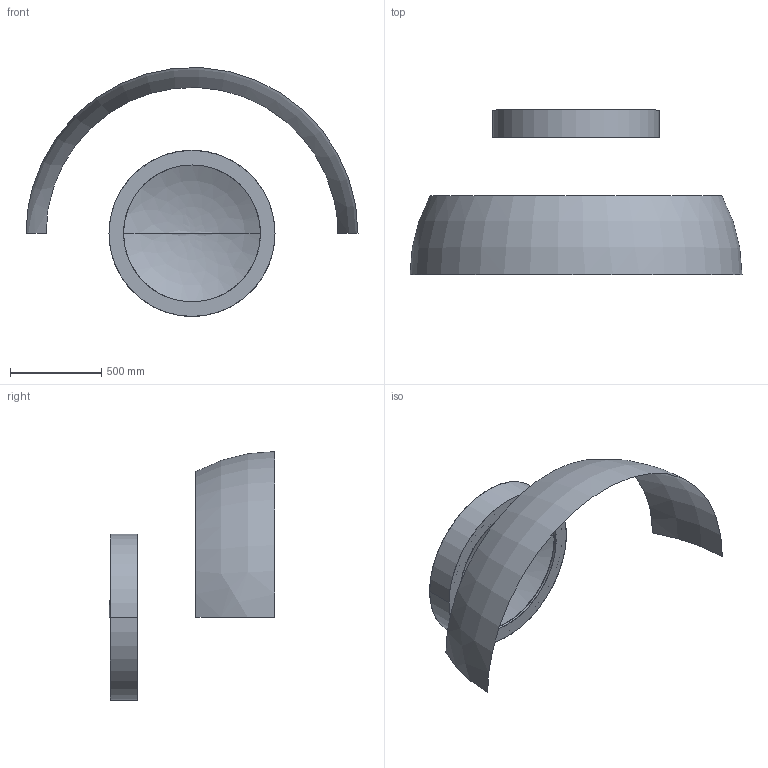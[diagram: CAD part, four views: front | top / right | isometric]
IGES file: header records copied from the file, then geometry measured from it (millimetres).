
Start section: SolidWorks IGES file using analytic representation for surfaces
Global section: file name: C:\Users\Stagiaire\Desktop\Rendu 3D\COUPOLE\3162_COUPOLE_75\3162_COUPOLE_75.IGS; native system: SolidWorks 2014; preprocessor: SolidWorks 2014; author: Stagiaire; date: 141006.164307; units: millimetre
Bounding box: 1819.95 x 909.98 x 1363.51 mm (x, y, z)
Surface area: 3398511.4 mm2 (no closed solid volume)
Topology: 0 solids, 0 shells, 18 faces, 568 edges, 566 vertices
Faces by surface type: revolution 14, bspline 4
